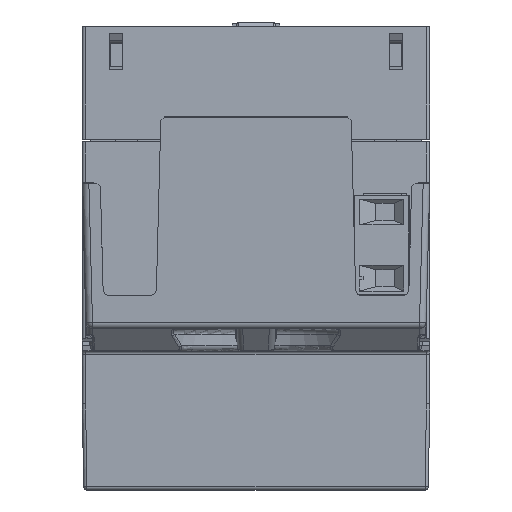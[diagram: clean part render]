
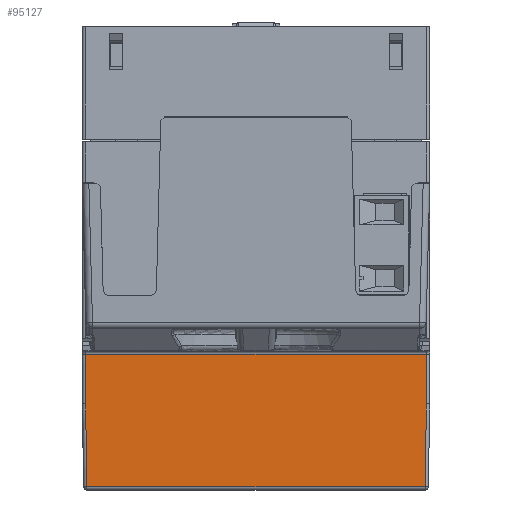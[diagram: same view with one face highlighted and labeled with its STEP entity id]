
A CAD part, front view. The second image highlights one B-rep face of the part: STEP entity #95127.
In plain terms, the highlighted planar face has unit normal (0, -1, -0.018).
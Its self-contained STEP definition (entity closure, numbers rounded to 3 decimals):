
#5852=CARTESIAN_POINT('',(25.75,-22.5,
-40.));
#5873=DIRECTION('',(0.,-0.017,1.));
#5874=VECTOR('',#5873,7.51);
#5875=CARTESIAN_POINT('',(25.75,-22.5,
-40.));
#5876=LINE('',#5875,#5874);
#12869=DIRECTION('',(-1.,0.,0.));
#12870=VECTOR('',#12869,51.5);
#12871=CARTESIAN_POINT('',(25.75,-22.631,-32.491));
#12872=LINE('',#12871,#12870);
#12876=DIRECTION('',(-0.017,0.017,-1.));
#12877=VECTOR('',#12876,12.513);
#12878=CARTESIAN_POINT('',(25.75,-22.5,
-40.));
#12879=LINE('',#12878,#12877);
#12883=DIRECTION('',(-0.017,-0.017,1.));
#12884=VECTOR('',#12883,12.513);
#12885=CARTESIAN_POINT('',(-25.532,-22.282,
-52.509));
#12886=LINE('',#12885,#12884);
#12897=DIRECTION('',(1.,0.,0.));
#12898=VECTOR('',#12897,51.063);
#12899=CARTESIAN_POINT('',(-25.532,-22.282,
-52.509));
#12900=LINE('',#12899,#12898);
#12958=CARTESIAN_POINT('',(-25.75,-22.5,
-40.));
#12963=DIRECTION('',(0.,0.017,-1.));
#12964=VECTOR('',#12963,7.51);
#12965=CARTESIAN_POINT('',(-25.75,-22.631,-32.491));
#12966=LINE('',#12965,#12964);
#78672=CARTESIAN_POINT('',(-25.75,-22.631,-32.491));
#78673=VERTEX_POINT('',#78672);
#78686=CARTESIAN_POINT('',(25.75,-22.631,-32.491));
#78687=VERTEX_POINT('',#78686);
#83970=CARTESIAN_POINT('',(25.532,-22.282,
-52.509));
#83971=VERTEX_POINT('',#83970);
#83980=CARTESIAN_POINT('',(-25.532,-22.282,
-52.509));
#83981=VERTEX_POINT('',#83980);
#84147=VERTEX_POINT('',#5852);
#84148=VERTEX_POINT('',#12958);
#95111=CARTESIAN_POINT('',(28.665,-22.5,-40.));
#95112=DIRECTION('',(0.,-1.,-0.017));
#95113=DIRECTION('',(-1.,0.,0.));
#95114=AXIS2_PLACEMENT_3D('',#95111,#95112,#95113);
#95115=PLANE('',#95114);
#95116=ORIENTED_EDGE('',*,*,#91109,.F.);
#95117=ORIENTED_EDGE('',*,*,#91126,.T.);
#95119=ORIENTED_EDGE('',*,*,#95118,.F.);
#95121=ORIENTED_EDGE('',*,*,#95120,.T.);
#95123=ORIENTED_EDGE('',*,*,#95122,.F.);
#95124=ORIENTED_EDGE('',*,*,#95104,.F.);
#95125=EDGE_LOOP('',(#95116,#95117,#95119,#95121,#95123,#95124));
#95126=FACE_OUTER_BOUND('',#95125,.F.);
#91109=EDGE_CURVE('',#84147,#78687,#5876,.T.);
#91126=EDGE_CURVE('',#84147,#83971,#12879,.T.);
#95104=EDGE_CURVE('',#78687,#78673,#12872,.T.);
#95118=EDGE_CURVE('',#83981,#83971,#12900,.T.);
#95120=EDGE_CURVE('',#83981,#84148,#12886,.T.);
#95122=EDGE_CURVE('',#78673,#84148,#12966,.T.);
#95127=ADVANCED_FACE('',(#95126),#95115,.T.);
